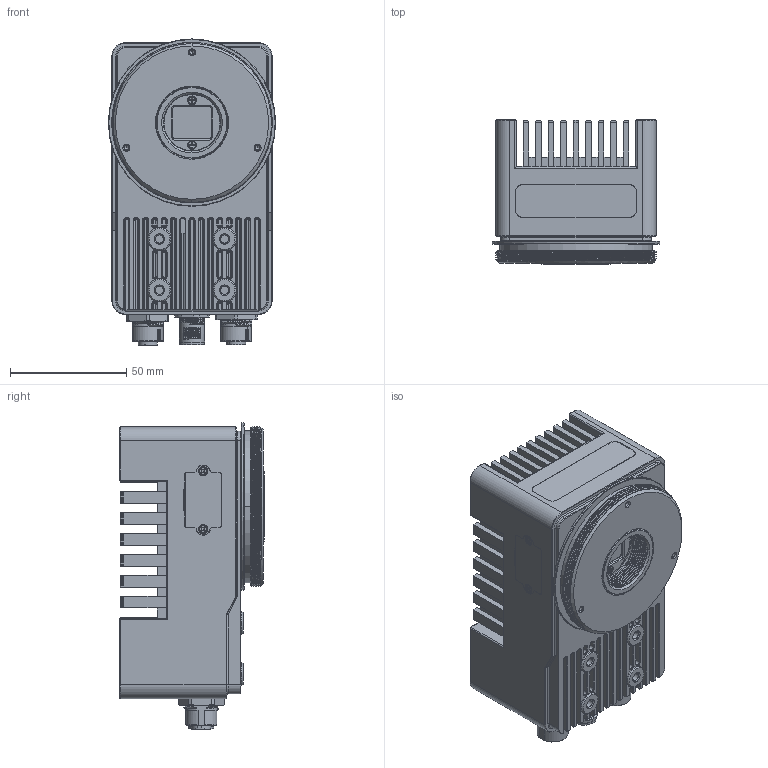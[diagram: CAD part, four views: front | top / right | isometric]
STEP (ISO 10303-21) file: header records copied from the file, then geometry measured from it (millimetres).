
FILE_DESCRIPTION((''),'2;1');
FILE_NAME('PRT0001','2022-09-08T09:42:58',('309191'),(''),'CREO PARAMETRIC BY PTC INC, 2020184','CREO PARAMETRIC BY PTC INC, 2020184','');
FILE_SCHEMA(('CONFIG_CONTROL_DESIGN','SHAPE_APPEARANCE_LAYERS_GROUPS'));
Products named in the file (1): PRT0001
Bounding box: 72 x 62 x 131.7 mm (x, y, z)
Volume: 312394.5 mm3; surface area: 102927.4 mm2
Topology: 2 solids, 49 shells, 3745 faces, 9975 edges, 6490 vertices
Faces by surface type: plane 2005, cylinder 901, cone 347, bspline 314, torus 130, sphere 48
Entity records: 182666 total; most frequent: CARTESIAN_POINT 46921, ORIENTED_EDGE 19641, DIRECTION 18206, PRESENTATION_STYLE_ASSIGNMENT 11874, STYLED_ITEM 9921, CURVE_STYLE 9879, EDGE_CURVE 9879, VERTEX_POINT 6566
